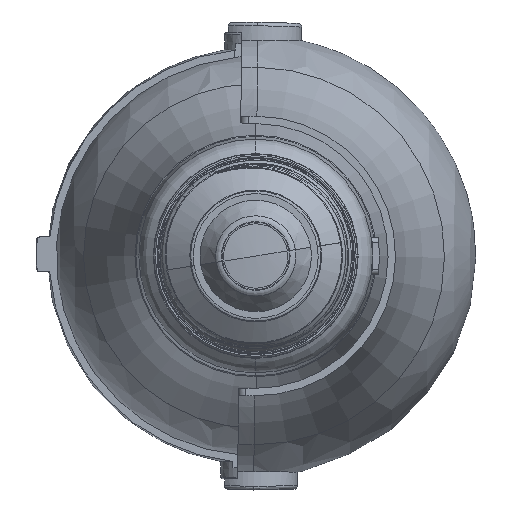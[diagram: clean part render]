
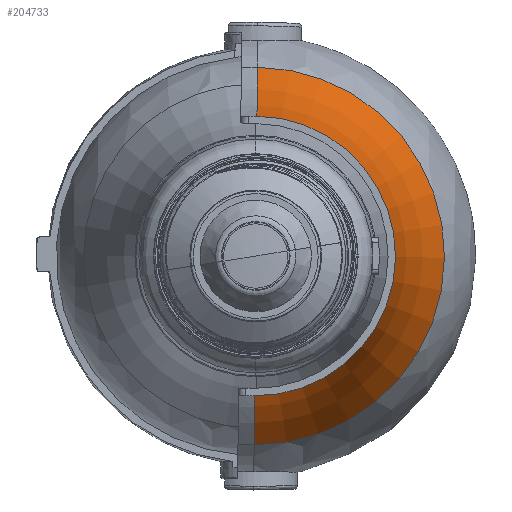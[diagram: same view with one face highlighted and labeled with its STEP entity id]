
A CAD part, front view. The second image highlights one B-rep face of the part: STEP entity #204733.
In plain terms, the highlighted toroidal (fillet/blend) face has major radius 80.801 mm and minor radius 62.4 mm.
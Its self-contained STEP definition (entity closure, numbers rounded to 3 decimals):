
#204733 = ADVANCED_FACE('',(#204734),#204772,.F.);
#204734 = FACE_BOUND('',#204735,.F.);
#204735 = EDGE_LOOP('',(#204736,#204747,#204756,#204765));
#204736 = ORIENTED_EDGE('',*,*,#204737,.T.);
#204737 = EDGE_CURVE('',#204738,#204740,#204742,.T.);
#204738 = VERTEX_POINT('',#204739);
#204739 = CARTESIAN_POINT('',(19.112,-35.585,0.));
#204740 = VERTEX_POINT('',#204741);
#204741 = CARTESIAN_POINT('',(25.811,-15.486,0.));
#204742 = CIRCLE('',#204743,62.4);
#204743 = AXIS2_PLACEMENT_3D('',#204744,#204745,#204746);
#204744 = CARTESIAN_POINT('',(80.801,-44.978,0.));
#204745 = DIRECTION('',(0.,0.,-1.));
#204746 = DIRECTION('',(-1.,0.,0.));
#204747 = ORIENTED_EDGE('',*,*,#204748,.F.);
#204748 = EDGE_CURVE('',#204749,#204740,#204751,.T.);
#204749 = VERTEX_POINT('',#204750);
#204750 = CARTESIAN_POINT('',(-25.811,-15.486,
    0.));
#204751 = CIRCLE('',#204752,25.811);
#204752 = AXIS2_PLACEMENT_3D('',#204753,#204754,#204755);
#204753 = CARTESIAN_POINT('',(0.,-15.486,0.));
#204754 = DIRECTION('',(0.,-1.,0.));
#204755 = DIRECTION('',(1.,0.,0.));
#204756 = ORIENTED_EDGE('',*,*,#204757,.F.);
#204757 = EDGE_CURVE('',#204758,#204749,#204760,.T.);
#204758 = VERTEX_POINT('',#204759);
#204759 = CARTESIAN_POINT('',(-19.112,-35.585,
    0.));
#204760 = CIRCLE('',#204761,62.4);
#204761 = AXIS2_PLACEMENT_3D('',#204762,#204763,#204764);
#204762 = CARTESIAN_POINT('',(-80.801,-44.978,
    0.));
#204763 = DIRECTION('',(0.,0.,1.));
#204764 = DIRECTION('',(1.,0.,0.));
#204765 = ORIENTED_EDGE('',*,*,#204766,.F.);
#204766 = EDGE_CURVE('',#204738,#204758,#204767,.T.);
#204767 = CIRCLE('',#204768,19.112);
#204768 = AXIS2_PLACEMENT_3D('',#204769,#204770,#204771);
#204769 = CARTESIAN_POINT('',(0.,-35.585,0.));
#204770 = DIRECTION('',(0.,1.,0.));
#204771 = DIRECTION('',(0.,0.,-1.));
#204772 = TOROIDAL_SURFACE('',#204773,80.801,62.4);
#204773 = AXIS2_PLACEMENT_3D('',#204774,#204775,#204776);
#204774 = CARTESIAN_POINT('',(0.,-44.978,0.));
#204775 = DIRECTION('',(0.,-1.,-0.));
#204776 = DIRECTION('',(1.,0.,0.));
